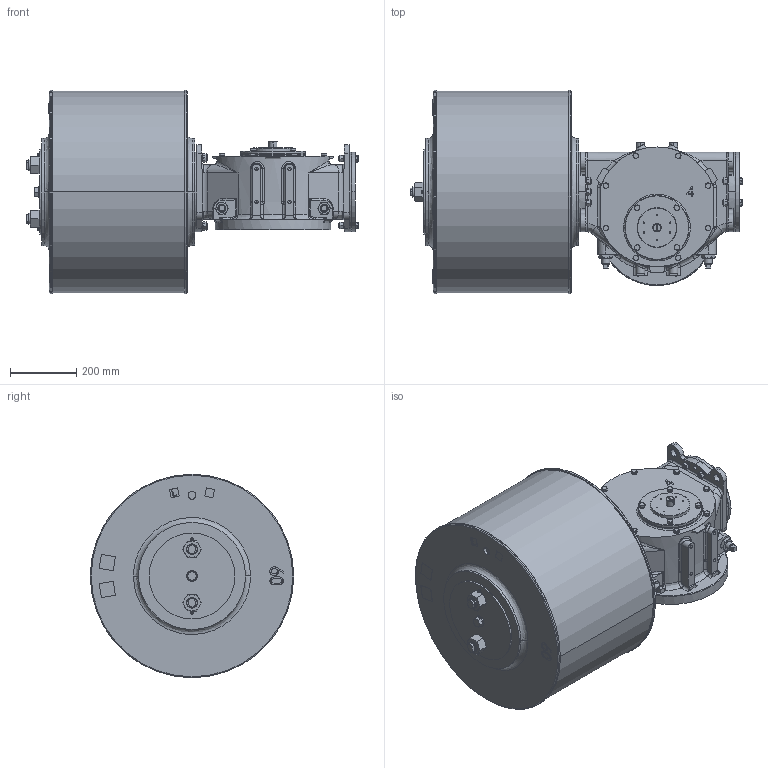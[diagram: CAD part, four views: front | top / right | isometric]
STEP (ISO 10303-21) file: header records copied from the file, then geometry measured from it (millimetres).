
FILE_DESCRIPTION (( 'STEP AP203' ), '1' );
FILE_NAME ('VTS4-600.STEP', '2023-01-01T09:32:30', ( '' ), ( '' ), 'SwSTEP 2.0', 'SolidWorks 2020', '' );
FILE_SCHEMA (( 'CONFIG_CONTROL_DESIGN' ));
Length unit declared in the file: millimetre
Products named in the file (1): VTS4-600
Bounding box: 1004.68 x 616 x 616 mm (x, y, z)
Volume: 155390565.4 mm3; surface area: 2390973.8 mm2
Topology: 1 solids, 16 shells, 1726 faces, 4443 edges, 2817 vertices
Faces by surface type: plane 758, cylinder 508, cone 350, bspline 110
Entity records: 65794 total; most frequent: CARTESIAN_POINT 24691, ORIENTED_EDGE 8790, DIRECTION 8419, EDGE_CURVE 4395, AXIS2_PLACEMENT_3D 3287, VERTEX_POINT 2817, EDGE_LOOP 1908, VECTOR 1845
